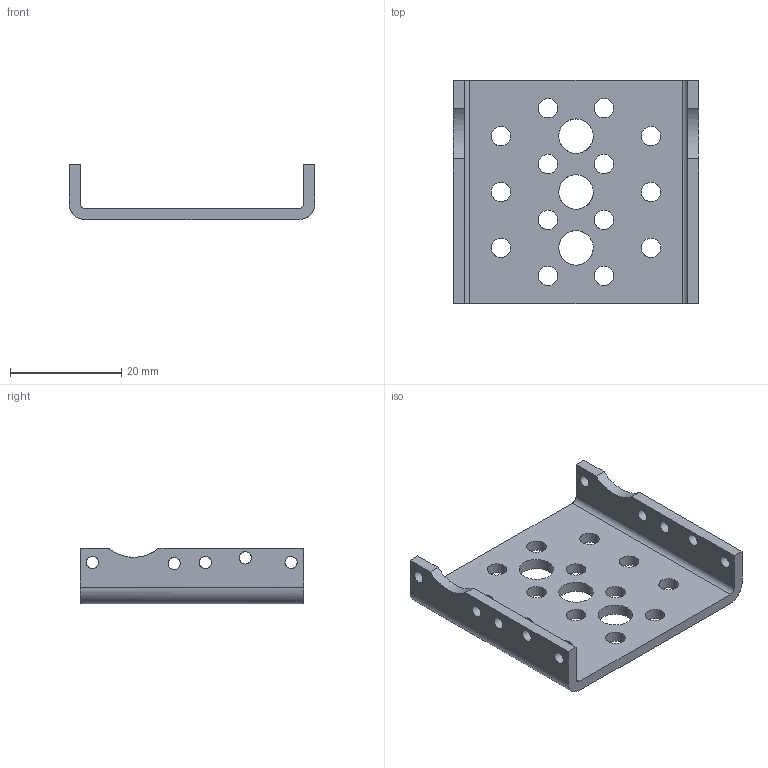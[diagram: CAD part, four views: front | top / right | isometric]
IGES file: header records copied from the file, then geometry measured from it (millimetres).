
Global section: file name: U-Bracket; native system: Autodesk Inventor 2019; preprocessor: unknown; author: Sebi; date: 20200427.150809; units: millimetre
Bounding box: 44.2 x 40.2 x 10 mm (x, y, z)
Volume: 4134.5 mm3; surface area: 5095.9 mm2
Topology: 1 solids, 1 shells, 45 faces, 151 edges, 108 vertices
Faces by surface type: bspline 45
